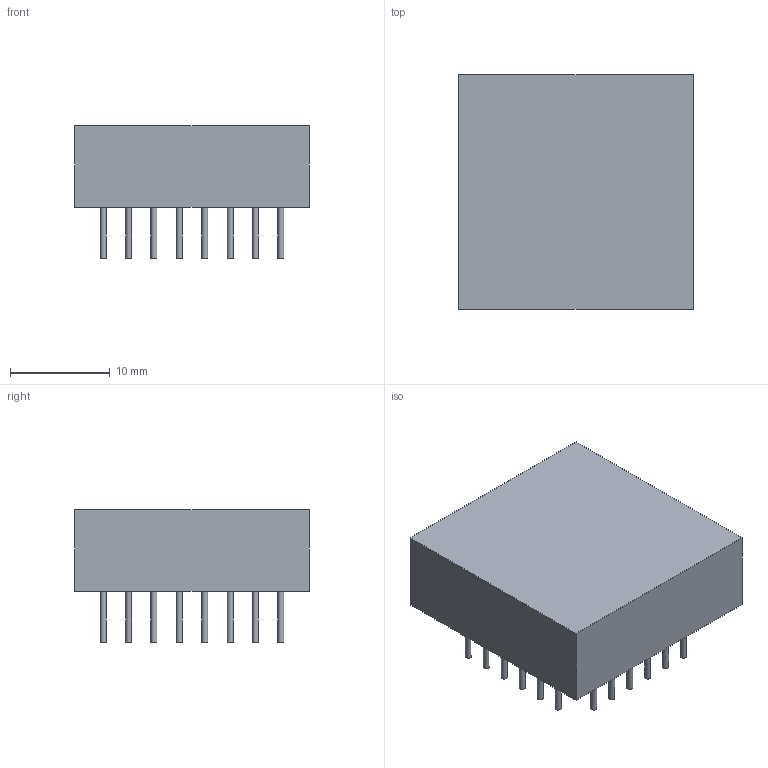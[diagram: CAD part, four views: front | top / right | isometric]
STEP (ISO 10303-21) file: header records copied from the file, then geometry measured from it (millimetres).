
FILE_DESCRIPTION(('FreeCAD Model'),'2;1');
FILE_NAME('/var/www/3D/0T/1139595.1.3.stp','2021-05-25T17:53:44',( 'Author'),(''),'Open CASCADE STEP processor 6.9','FreeCAD','Unknown' );
FILE_SCHEMA(('AUTOMOTIVE_DESIGN { 1 0 10303 214 1 1 1 1 }'));
Length unit declared in the file: millimetre
Products named in the file (3): ASSEMBLY; Body; Leads
Assembly tree (2 placements, depth 2):
  ASSEMBLY
    Body
    Leads
Bounding box: 23.5 x 23.5 x 13.3 mm (x, y, z)
Volume: 4591.9 mm3; surface area: 2323.2 mm2
Topology: 45 solids, 45 shells, 138 faces, 144 edges, 96 vertices
Faces by surface type: plane 94, cylinder 44
Full cylindrical faces by diameter (mm): 0.6 x44
Entity records: 4815 total; most frequent: DIRECTION 802, CARTESIAN_POINT 669, ORIENTED_EDGE 288, PCURVE 288, DEFINITIONAL_REPRESENTATION 288, LINE 256, VECTOR 256, AXIS2_PLACEMENT_3D 229
